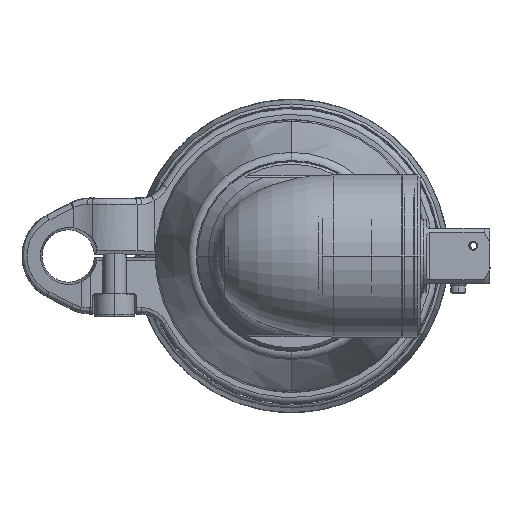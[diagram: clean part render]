
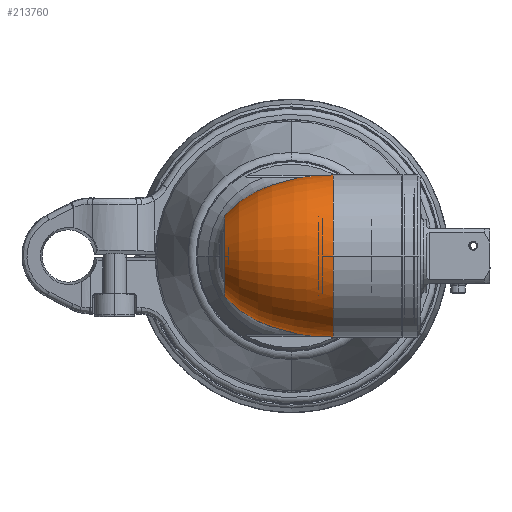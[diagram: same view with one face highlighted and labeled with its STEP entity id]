
A CAD part, left-side view. The second image highlights one B-rep face of the part: STEP entity #213760.
In plain terms, the highlighted face is a revolution surface.
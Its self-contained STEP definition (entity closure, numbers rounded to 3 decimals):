
#211457=CARTESIAN_POINT('',(-71.048,-11.5,
6.347));
#211458=CARTESIAN_POINT('',(-71.075,-11.416,
6.47));
#211459=CARTESIAN_POINT('',(-71.133,-11.239,
6.721));
#211460=CARTESIAN_POINT('',(-71.229,-10.947,
7.104));
#211461=CARTESIAN_POINT('',(-71.336,-10.62,
7.503));
#211462=CARTESIAN_POINT('',(-71.456,-10.252,
7.917));
#211463=CARTESIAN_POINT('',(-71.588,-9.842,
8.342));
#211464=CARTESIAN_POINT('',(-71.73,-9.387,
8.774));
#211465=CARTESIAN_POINT('',(-71.879,-8.895,
9.202));
#211466=CARTESIAN_POINT('',(-72.027,-8.378,
9.612));
#211467=CARTESIAN_POINT('',(-72.164,-7.856,
9.989));
#211468=CARTESIAN_POINT('',(-72.282,-7.35,
10.325));
#211469=CARTESIAN_POINT('',(-72.377,-6.87,
10.619));
#211470=CARTESIAN_POINT('',(-72.448,-6.418,
10.875));
#211471=CARTESIAN_POINT('',(-72.496,-5.985,
11.104));
#211472=CARTESIAN_POINT('',(-72.52,-5.604,
11.292));
#211473=CARTESIAN_POINT('',(-72.527,-5.256,
11.455));
#211474=CARTESIAN_POINT('',(-72.52,-4.922,
11.602));
#211475=CARTESIAN_POINT('',(-72.499,-4.589,
11.74));
#211476=CARTESIAN_POINT('',(-72.464,-4.246,
11.875));
#211477=CARTESIAN_POINT('',(-72.411,-3.879,
12.011));
#211478=CARTESIAN_POINT('',(-72.337,-3.472,
12.151));
#211479=CARTESIAN_POINT('',(-72.232,-3.006,
12.299));
#211480=CARTESIAN_POINT('',(-72.089,-2.469,
12.454));
#211481=CARTESIAN_POINT('',(-71.905,-1.864,
12.608));
#211482=CARTESIAN_POINT('',(-71.681,-1.204,
12.753));
#211483=CARTESIAN_POINT('',(-71.418,-0.496,
12.881));
#211484=CARTESIAN_POINT('',(-71.122,0.248,
12.987));
#211485=CARTESIAN_POINT('',(-70.799,1.009,
13.065));
#211486=CARTESIAN_POINT('',(-70.457,1.773,
13.112));
#211487=CARTESIAN_POINT('',(-70.103,2.524,
13.125));
#211488=CARTESIAN_POINT('',(-69.759,3.218,
13.108));
#211489=CARTESIAN_POINT('',(-69.44,3.829,
13.068));
#211490=CARTESIAN_POINT('',(-69.144,4.371,
13.012));
#211491=CARTESIAN_POINT('',(-68.869,4.853,
12.944));
#211492=CARTESIAN_POINT('',(-68.609,5.285,
12.866));
#211493=CARTESIAN_POINT('',(-68.363,5.676,
12.781));
#211494=CARTESIAN_POINT('',(-68.128,6.032,
12.689));
#211495=CARTESIAN_POINT('',(-67.9,6.359,
12.591));
#211496=CARTESIAN_POINT('',(-67.677,6.661,
12.488));
#211497=CARTESIAN_POINT('',(-67.46,6.939,
12.378));
#211498=CARTESIAN_POINT('',(-67.312,7.115,
12.3));
#211499=CARTESIAN_POINT('',(-67.238,7.2,
12.259));
#211501=CARTESIAN_POINT('',(-67.239,7.2,-12.259));
#211502=CARTESIAN_POINT('',(-67.33,7.096,
-12.31));
#211503=CARTESIAN_POINT('',(-67.518,6.874,
-12.409));
#211504=CARTESIAN_POINT('',(-67.809,6.503,
-12.551));
#211505=CARTESIAN_POINT('',(-68.109,6.09,
-12.683));
#211506=CARTESIAN_POINT('',(-68.409,5.648,
-12.8));
#211507=CARTESIAN_POINT('',(-68.701,5.19,
-12.899));
#211508=CARTESIAN_POINT('',(-68.989,4.712,
-12.981));
#211509=CARTESIAN_POINT('',(-69.276,4.209,
-13.046));
#211510=CARTESIAN_POINT('',(-69.564,3.677,
-13.095));
#211511=CARTESIAN_POINT('',(-69.857,3.109,
-13.126));
#211512=CARTESIAN_POINT('',(-70.157,2.498,
-13.137));
#211513=CARTESIAN_POINT('',(-70.469,1.832,
-13.123));
#211514=CARTESIAN_POINT('',(-70.793,1.102,
-13.081));
#211515=CARTESIAN_POINT('',(-71.113,0.338,
-13.005));
#211516=CARTESIAN_POINT('',(-71.41,-0.415,
-12.899));
#211517=CARTESIAN_POINT('',(-71.674,-1.135,
-12.77));
#211518=CARTESIAN_POINT('',(-71.901,-1.809,
-12.624));
#211519=CARTESIAN_POINT('',(-72.088,-2.427,
-12.467));
#211520=CARTESIAN_POINT('',(-72.232,-2.974,
-12.31));
#211521=CARTESIAN_POINT('',(-72.338,-3.449,
-12.16));
#211522=CARTESIAN_POINT('',(-72.413,-3.862,
-12.018));
#211523=CARTESIAN_POINT('',(-72.466,-4.232,
-11.881));
#211524=CARTESIAN_POINT('',(-72.502,-4.576,
-11.746));
#211525=CARTESIAN_POINT('',(-72.522,-4.909,
-11.607));
#211526=CARTESIAN_POINT('',(-72.53,-5.241,
-11.461));
#211527=CARTESIAN_POINT('',(-72.523,-5.587,
-11.301));
#211528=CARTESIAN_POINT('',(-72.499,-5.964,
-11.115));
#211529=CARTESIAN_POINT('',(-72.452,-6.392,
-10.89));
#211530=CARTESIAN_POINT('',(-72.382,-6.846,
-10.633));
#211531=CARTESIAN_POINT('',(-72.288,-7.328,
-10.34));
#211532=CARTESIAN_POINT('',(-72.17,-7.836,
-10.003));
#211533=CARTESIAN_POINT('',(-72.032,-8.361,
-9.624));
#211534=CARTESIAN_POINT('',(-71.883,-8.883,
-9.212));
#211535=CARTESIAN_POINT('',(-71.733,-9.379,
-8.782));
#211536=CARTESIAN_POINT('',(-71.589,-9.837,
-8.348));
#211537=CARTESIAN_POINT('',(-71.457,-10.249,
-7.921));
#211538=CARTESIAN_POINT('',(-71.337,-10.618,
-7.506));
#211539=CARTESIAN_POINT('',(-71.229,-10.946,
-7.105));
#211540=CARTESIAN_POINT('',(-71.133,-11.239,
-6.721));
#211541=CARTESIAN_POINT('',(-71.075,-11.416,
-6.47));
#211542=CARTESIAN_POINT('',(-71.047,-11.5,-6.347));
#211548=CARTESIAN_POINT('',(-74.,-11.5,0.));
#211549=DIRECTION('',(0.,-1.,0.));
#211550=DIRECTION('',(0.422,0.,0.907));
#211551=AXIS2_PLACEMENT_3D('',#211548,#211549,#211550);
#211567=CARTESIAN_POINT('',(-71.048,-11.5,
-6.347));
#211751=CARTESIAN_POINT('',(-74.,7.2,0.));
#211752=DIRECTION('',(0.,-1.,0.));
#211753=DIRECTION('',(-1.,0.,0.));
#211754=AXIS2_PLACEMENT_3D('',#211751,#211752,#211753);
#211786=CARTESIAN_POINT('',(-67.239,7.2,
-12.259));
#212139=CARTESIAN_POINT('',(-67.238,7.2,
12.259));
#212171=CARTESIAN_POINT('',(-74.,7.2,0.));
#212172=DIRECTION('',(0.,1.,0.));
#212173=DIRECTION('',(-1.,0.,0.));
#212174=AXIS2_PLACEMENT_3D('',#212171,#212172,#212173);
#212203=VERTEX_POINT('',#211786);
#212205=VERTEX_POINT('',#212139);
#212206=VERTEX_POINT('',#211457);
#212208=CARTESIAN_POINT('',(-88.,7.2,0.));
#212209=VERTEX_POINT('',#212208);
#212210=VERTEX_POINT('',#211567);
#213738=CARTESIAN_POINT('',(-80.841,-11.631,0.));
#213739=CARTESIAN_POINT('',(-80.895,-11.588,0.));
#213740=CARTESIAN_POINT('',(-86.079,-7.302,0.));
#213741=CARTESIAN_POINT('',(-88.02,0.624,0.));
#213742=CARTESIAN_POINT('',(-88.,7.337,0.));
#213743=CARTESIAN_POINT('',(-87.999,7.405,0.));
#213745=CARTESIAN_POINT('',(-74.,-13.035,0.));
#213746=DIRECTION('',(0.,1.,0.));
#213747=AXIS1_PLACEMENT('',#213745,#213746);
#213748=SURFACE_OF_REVOLUTION('',#213744,#213747);
#213749=ORIENTED_EDGE('',*,*,#213729,.F.);
#213751=ORIENTED_EDGE('',*,*,#213750,.T.);
#213753=ORIENTED_EDGE('',*,*,#213752,.F.);
#213755=ORIENTED_EDGE('',*,*,#213754,.F.);
#213757=ORIENTED_EDGE('',*,*,#213756,.T.);
#213758=EDGE_LOOP('',(#213749,#213751,#213753,#213755,#213757));
#213759=FACE_OUTER_BOUND('',#213758,.F.);
#211500=B_SPLINE_CURVE_WITH_KNOTS('',3,(#211457,#211458,#211459,#211460,#211461,
#211462,#211463,#211464,#211465,#211466,#211467,#211468,#211469,#211470,#211471,
#211472,#211473,#211474,#211475,#211476,#211477,#211478,#211479,#211480,#211481,
#211482,#211483,#211484,#211485,#211486,#211487,#211488,#211489,#211490,#211491,
#211492,#211493,#211494,#211495,#211496,#211497,#211498,#211499),.UNSPECIFIED.,
.F.,.F.,(4,1,1,1,1,1,1,1,1,1,1,1,1,1,1,1,1,1,1,1,1,1,1,1,1,1,1,1,1,1,1,1,1,1,1,
1,1,1,1,1,4),(0.,0.025,0.05,0.075,0.1,0.125,0.15,0.175,0.2,
0.225,0.25,0.275,0.3,0.325,0.35,0.375,0.4,0.425,0.45,
0.475,0.5,0.525,0.55,0.575,0.6,0.625,0.65,0.675,0.7,0.725,
0.75,0.775,0.8,0.825,0.85,0.875,0.9,0.925,0.95,0.975,1.),
.UNSPECIFIED.);
#211543=B_SPLINE_CURVE_WITH_KNOTS('',3,(#211501,#211502,#211503,#211504,#211505,
#211506,#211507,#211508,#211509,#211510,#211511,#211512,#211513,#211514,#211515,
#211516,#211517,#211518,#211519,#211520,#211521,#211522,#211523,#211524,#211525,
#211526,#211527,#211528,#211529,#211530,#211531,#211532,#211533,#211534,#211535,
#211536,#211537,#211538,#211539,#211540,#211541,#211542),.UNSPECIFIED.,.F.,.F.,(
4,1,1,1,1,1,1,1,1,1,1,1,1,1,1,1,1,1,1,1,1,1,1,1,1,1,1,1,1,1,1,1,1,1,1,1,1,1,1,
4),(0.,0.026,0.051,0.077,
0.103,0.128,0.154,0.179,
0.205,0.231,0.256,0.282,
0.308,0.333,0.359,0.385,
0.41,0.436,0.462,0.487,
0.513,0.538,0.564,0.59,
0.615,0.641,0.667,0.692,
0.718,0.744,0.769,0.795,
0.821,0.846,0.872,0.897,
0.923,0.949,0.974,1.),.UNSPECIFIED.);
#211552=CIRCLE('',#211551,7.);
#211755=CIRCLE('',#211754,14.);
#212175=CIRCLE('',#212174,14.);
#213729=EDGE_CURVE('',#212206,#212205,#211500,.T.);
#213744=B_SPLINE_CURVE_WITH_KNOTS('',3,(#213738,#213739,#213740,#213741,#213742,
#213743),.UNSPECIFIED.,.F.,.F.,(4,1,1,4),(0.,0.01,
0.99,1.),.UNSPECIFIED.);
#213750=EDGE_CURVE('',#212206,#212210,#211552,.T.);
#213752=EDGE_CURVE('',#212203,#212210,#211543,.T.);
#213754=EDGE_CURVE('',#212209,#212203,#211755,.T.);
#213756=EDGE_CURVE('',#212209,#212205,#212175,.T.);
#213760=ADVANCED_FACE('',(#213759),#213748,.T.);
